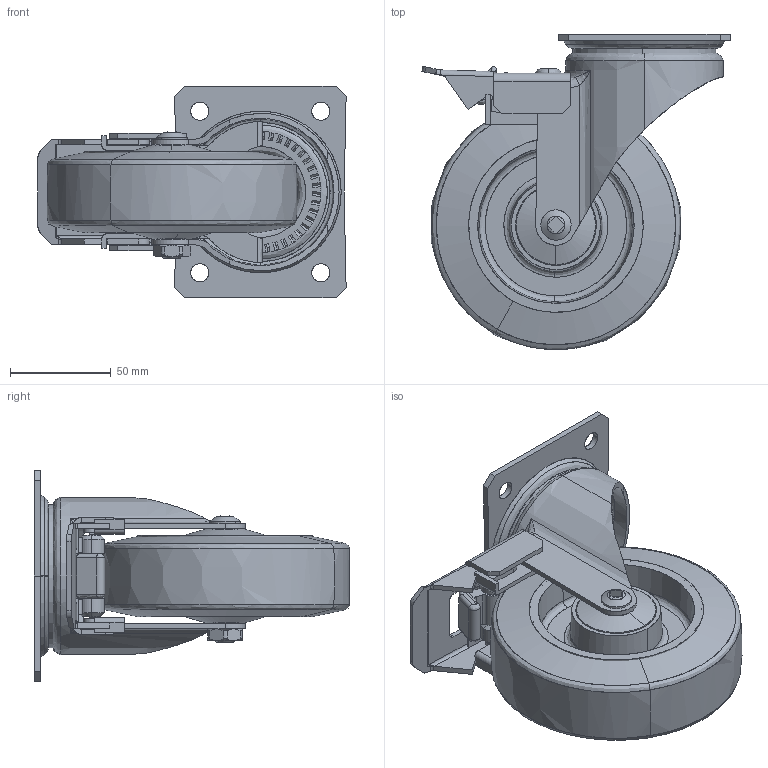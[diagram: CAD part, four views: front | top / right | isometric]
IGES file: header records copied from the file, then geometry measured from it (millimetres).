
Start section: SolidWorks IGES file using analytic representation for surfaces
Global section: file name: S:\Tyokansio\VL\21.10.2011\LK\400414_IGES.IGS; native system: SolidWorks 2011; preprocessor: SolidWorks 2011; author: VilleLa; date: 111021.152459; units: millimetre
Bounding box: 152.77 x 156.19 x 105 mm (x, y, z)
Surface area: 129628.1 mm2 (no closed solid volume)
Topology: 0 solids, 0 shells, 545 faces, 8493 edges, 8489 vertices
Faces by surface type: bspline 340, revolution 205
